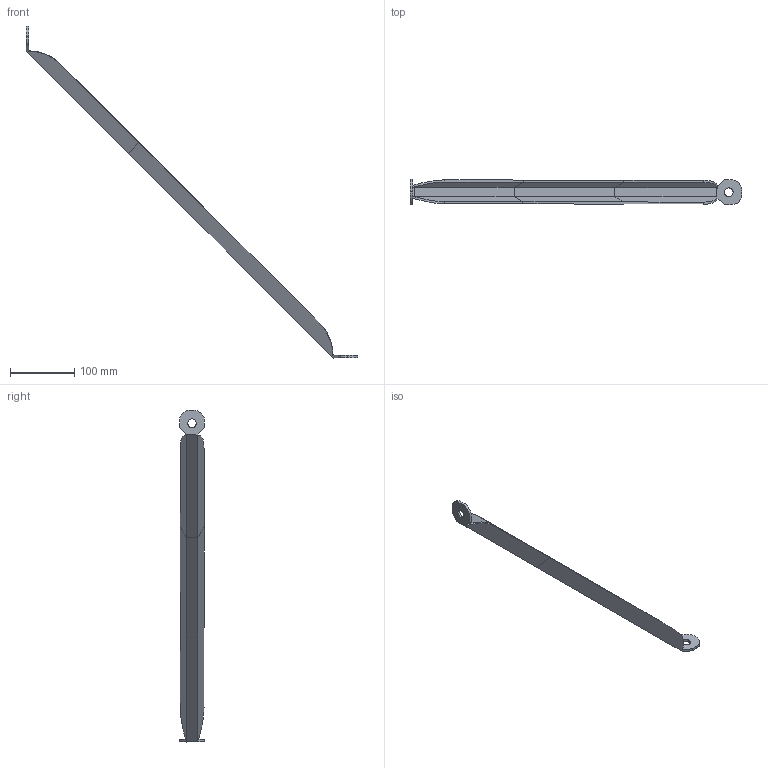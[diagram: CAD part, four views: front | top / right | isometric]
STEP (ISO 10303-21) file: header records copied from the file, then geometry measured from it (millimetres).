
FILE_DESCRIPTION(('TurboCAD Mac Pro'),'Build 980');
FILE_NAME('P2458-24.stp',' ',(''),(''),'ACIS Interop','IMSI','TurboCAD Mac Pro BY IMSI, INCORPORATED');
FILE_SCHEMA(('automotive_design'));
Length unit declared in the file: inch
Products named in the file (1): 1
Bounding box: 517.12 x 38.9 x 517.12 mm (x, y, z)
Volume: 142113.4 mm3; surface area: 91497.6 mm2
Topology: 1 solids, 1 shells, 72 faces, 191 edges, 121 vertices
Faces by surface type: plane 54, bspline 18
Entity records: 4027 total; most frequent: CARTESIAN_POINT 936, ORIENTED_EDGE 382, DIRECTION 248, STYLED_ITEM 246, PRESENTATION_STYLE_ASSIGNMENT 246, COLOUR_RGB 246, EDGE_CURVE 191, CURVE_STYLE 173
